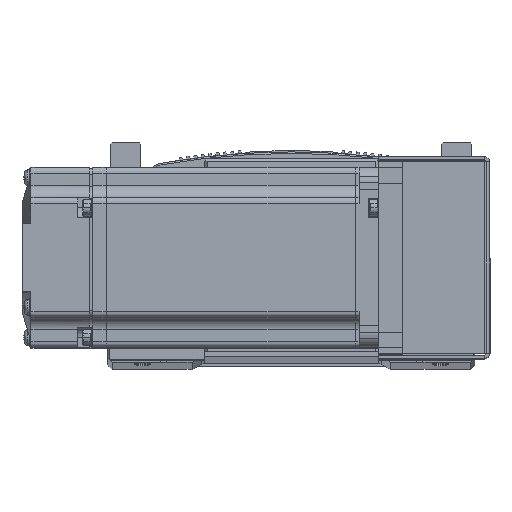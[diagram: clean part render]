
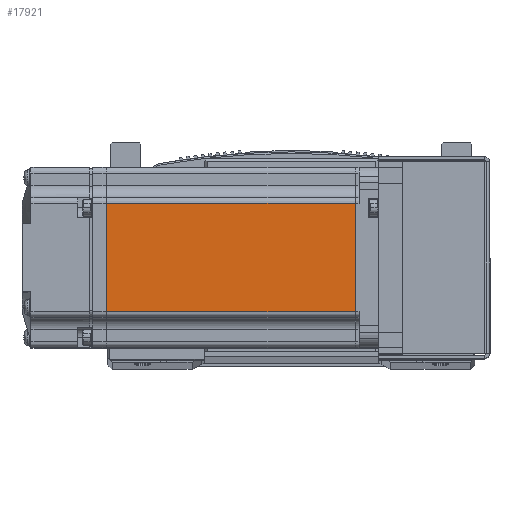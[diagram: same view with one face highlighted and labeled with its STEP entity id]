
A CAD part, top view. The second image highlights one B-rep face of the part: STEP entity #17921.
In plain terms, the highlighted planar face has unit normal (0, 0, 1) as drawn and (0, 1, 0) by its records, which use the part's own axes.
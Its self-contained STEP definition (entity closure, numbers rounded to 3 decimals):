
#7118 = EDGE_LOOP ( 'NONE', ( #67146, #67272, #67115, #67384 ) ) ;
#9241 = CARTESIAN_POINT ( 'NONE',  ( -7.75, 30., -18. ) ) ;
#9252 = CARTESIAN_POINT ( 'NONE',  ( -90.45, 30., -18. ) ) ;
#12861 = LINE ( 'NONE', #34423, #12873 ) ;
#12864 = VECTOR ( 'NONE', #34498, 1000. ) ;
#12865 = LINE ( 'NONE', #34555, #12864 ) ;
#12873 = VECTOR ( 'NONE', #34456, 1000. ) ;
#14189 = VECTOR ( 'NONE', #34105, 1000. ) ;
#14204 = LINE ( 'NONE', #34173, #14189 ) ;
#14211 = LINE ( 'NONE', #33975, #14252 ) ;
#14252 = VECTOR ( 'NONE', #33952, 1000. ) ;
#17921 = ADVANCED_FACE ( 'NONE', ( #36190 ), #77870, .T. ) ;
#33952 = DIRECTION ( 'NONE',  ( 1., 0., 0. ) ) ;
#33975 = CARTESIAN_POINT ( 'NONE',  ( -6.5, 30., 18. ) ) ;
#34105 = DIRECTION ( 'NONE',  ( 0., 0., 1. ) ) ;
#34173 = CARTESIAN_POINT ( 'NONE',  ( -90.45, 30., 0. ) ) ;
#34423 = CARTESIAN_POINT ( 'NONE',  ( -6.5, 30., -18. ) ) ;
#34456 = DIRECTION ( 'NONE',  ( -1., 0., 0. ) ) ;
#34498 = DIRECTION ( 'NONE',  ( 0., 0., 1. ) ) ;
#34555 = CARTESIAN_POINT ( 'NONE',  ( -7.75, 30., 0. ) ) ;
#36190 = FACE_OUTER_BOUND ( 'NONE', #7118, .T. ) ;
#45567 = CARTESIAN_POINT ( 'NONE',  ( -7.75, 30., 18. ) ) ;
#45684 = CARTESIAN_POINT ( 'NONE',  ( -90.45, 30., 18. ) ) ;
#56227 = VERTEX_POINT ( 'NONE', #45684 ) ;
#56277 = VERTEX_POINT ( 'NONE', #45567 ) ;
#57833 = AXIS2_PLACEMENT_3D ( 'NONE', #77841, #77850, #77858 ) ;
#65734 = EDGE_CURVE ( 'NONE', #56227, #56277, #14211, .T. ) ;
#65754 = EDGE_CURVE ( 'NONE', #90008, #56227, #14204, .T. ) ;
#65786 = EDGE_CURVE ( 'NONE', #90019, #90008, #12861, .T. ) ;
#65798 = EDGE_CURVE ( 'NONE', #90019, #56277, #12865, .T. ) ;
#67115 = ORIENTED_EDGE ( 'NONE', *, *, #65754, .T. ) ;
#67146 = ORIENTED_EDGE ( 'NONE', *, *, #65798, .F. ) ;
#67272 = ORIENTED_EDGE ( 'NONE', *, *, #65786, .T. ) ;
#67384 = ORIENTED_EDGE ( 'NONE', *, *, #65734, .T. ) ;
#77841 = CARTESIAN_POINT ( 'NONE',  ( -6.5, 30., 25. ) ) ;
#77850 = DIRECTION ( 'NONE',  ( 0., 1., 0. ) ) ;
#77858 = DIRECTION ( 'NONE',  ( 0., 0., 1. ) ) ;
#77870 = PLANE ( 'NONE',  #57833 ) ;
#90008 = VERTEX_POINT ( 'NONE', #9252 ) ;
#90019 = VERTEX_POINT ( 'NONE', #9241 ) ;
